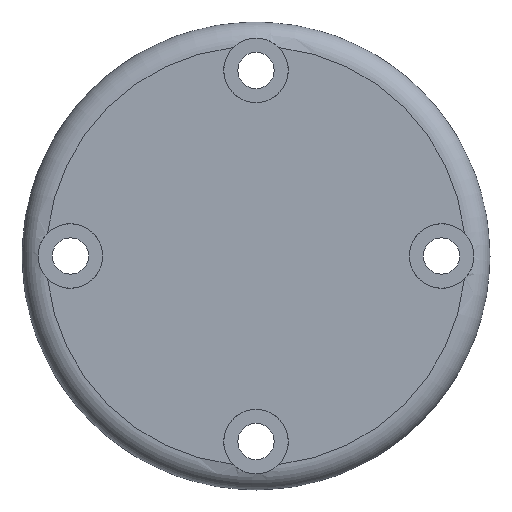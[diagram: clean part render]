
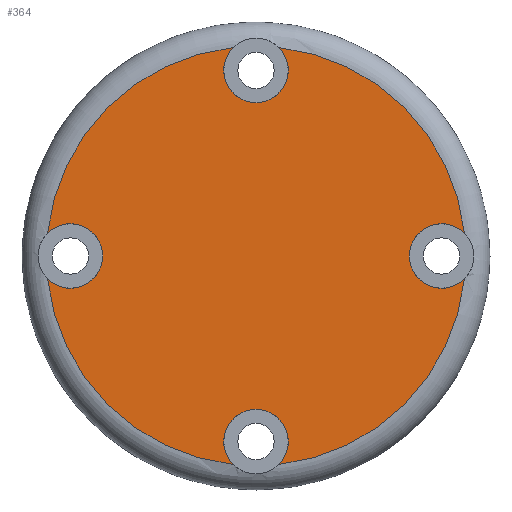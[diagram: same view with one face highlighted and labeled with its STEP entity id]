
A CAD part, left-side view. The second image highlights one B-rep face of the part: STEP entity #364.
In plain terms, the highlighted planar face has unit normal (-1, 0, 0).
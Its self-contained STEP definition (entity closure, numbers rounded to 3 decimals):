
#31=PLANE('',#421);
#45=FACE_OUTER_BOUND('',#70,.T.);
#70=EDGE_LOOP('',(#276,#277,#278,#279,#280,#281,#282,#283));
#114=CIRCLE('',#401,4.);
#118=CIRCLE('',#408,4.);
#122=CIRCLE('',#415,4.);
#126=CIRCLE('',#422,26.);
#127=CIRCLE('',#423,26.);
#128=CIRCLE('',#424,26.);
#129=CIRCLE('',#425,4.);
#130=CIRCLE('',#426,26.);
#154=VERTEX_POINT('',#578);
#156=VERTEX_POINT('',#588);
#160=VERTEX_POINT('',#609);
#162=VERTEX_POINT('',#619);
#166=VERTEX_POINT('',#640);
#168=VERTEX_POINT('',#650);
#172=VERTEX_POINT('',#673);
#173=VERTEX_POINT('',#675);
#189=EDGE_CURVE('',#156,#154,#114,.T.);
#197=EDGE_CURVE('',#162,#160,#118,.T.);
#205=EDGE_CURVE('',#168,#166,#122,.T.);
#212=EDGE_CURVE('',#162,#154,#126,.T.);
#213=EDGE_CURVE('',#168,#160,#127,.T.);
#214=EDGE_CURVE('',#172,#166,#128,.T.);
#215=EDGE_CURVE('',#172,#173,#129,.T.);
#216=EDGE_CURVE('',#156,#173,#130,.T.);
#276=ORIENTED_EDGE('',*,*,#189,.T.);
#277=ORIENTED_EDGE('',*,*,#212,.F.);
#278=ORIENTED_EDGE('',*,*,#197,.T.);
#279=ORIENTED_EDGE('',*,*,#213,.F.);
#280=ORIENTED_EDGE('',*,*,#205,.T.);
#281=ORIENTED_EDGE('',*,*,#214,.F.);
#282=ORIENTED_EDGE('',*,*,#215,.T.);
#283=ORIENTED_EDGE('',*,*,#216,.F.);
#364=ADVANCED_FACE('',(#45),#31,.T.);
#401=AXIS2_PLACEMENT_3D('',#589,#458,#459);
#408=AXIS2_PLACEMENT_3D('',#620,#474,#475);
#415=AXIS2_PLACEMENT_3D('',#651,#490,#491);
#421=AXIS2_PLACEMENT_3D('',#670,#504,#505);
#422=AXIS2_PLACEMENT_3D('',#671,#506,#507);
#423=AXIS2_PLACEMENT_3D('',#672,#508,#509);
#424=AXIS2_PLACEMENT_3D('',#674,#510,#511);
#425=AXIS2_PLACEMENT_3D('',#676,#512,#513);
#426=AXIS2_PLACEMENT_3D('',#677,#514,#515);
#458=DIRECTION('center_axis',(1.,0.,0.));
#459=DIRECTION('ref_axis',(0.,1.,0.));
#474=DIRECTION('center_axis',(1.,0.,0.));
#475=DIRECTION('ref_axis',(0.,0.,-1.));
#490=DIRECTION('center_axis',(1.,0.,0.));
#491=DIRECTION('ref_axis',(0.,-1.,0.));
#504=DIRECTION('center_axis',(-1.,0.,0.));
#505=DIRECTION('ref_axis',(0.,0.,1.));
#506=DIRECTION('center_axis',(1.,0.,0.));
#507=DIRECTION('ref_axis',(0.,0.,-1.));
#508=DIRECTION('center_axis',(1.,0.,0.));
#509=DIRECTION('ref_axis',(0.,0.,-1.));
#510=DIRECTION('center_axis',(1.,0.,0.));
#511=DIRECTION('ref_axis',(0.,0.,-1.));
#512=DIRECTION('center_axis',(1.,0.,0.));
#513=DIRECTION('ref_axis',(0.,0.,1.));
#514=DIRECTION('center_axis',(1.,0.,0.));
#515=DIRECTION('ref_axis',(0.,0.,-1.));
#578=CARTESIAN_POINT('',(-8.,-25.848,2.809));
#588=CARTESIAN_POINT('',(-8.,-25.848,-2.809));
#589=CARTESIAN_POINT('Origin',(-8.,-23.,0.));
#609=CARTESIAN_POINT('',(-8.,2.809,25.848));
#619=CARTESIAN_POINT('',(-8.,-2.809,25.848));
#620=CARTESIAN_POINT('Origin',(-8.,0.,23.));
#640=CARTESIAN_POINT('',(-8.,25.848,-2.809));
#650=CARTESIAN_POINT('',(-8.,25.848,2.809));
#651=CARTESIAN_POINT('Origin',(-8.,23.,0.));
#670=CARTESIAN_POINT('Origin',(-8.,26.,0.));
#671=CARTESIAN_POINT('Origin',(-8.,0.,0.));
#672=CARTESIAN_POINT('Origin',(-8.,0.,0.));
#673=CARTESIAN_POINT('',(-8.,2.809,-25.848));
#674=CARTESIAN_POINT('Origin',(-8.,0.,0.));
#675=CARTESIAN_POINT('',(-8.,-2.809,-25.848));
#676=CARTESIAN_POINT('Origin',(-8.,0.,-23.));
#677=CARTESIAN_POINT('Origin',(-8.,0.,0.));
